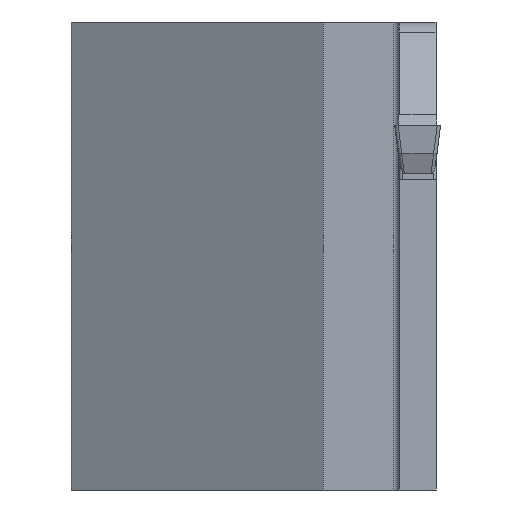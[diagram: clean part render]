
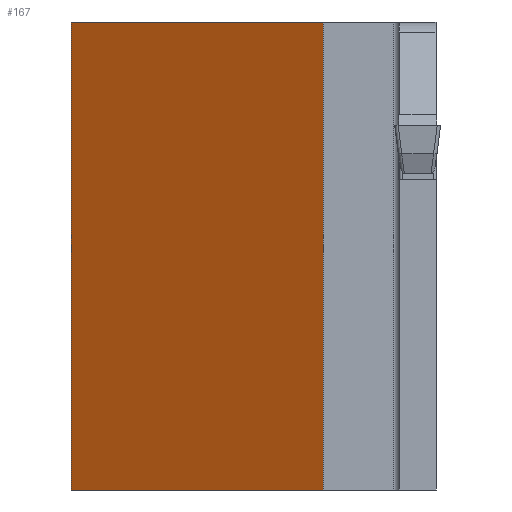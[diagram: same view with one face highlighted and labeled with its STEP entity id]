
A CAD part, left-side view. The second image highlights one B-rep face of the part: STEP entity #167.
In plain terms, the highlighted planar face has unit normal (-0.866, 0.5, 0).
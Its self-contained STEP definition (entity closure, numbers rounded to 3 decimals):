
#167=ADVANCED_FACE('',(#262),#210,.T.);
#210=PLANE('',#1172);
#262=FACE_OUTER_BOUND('',#317,.T.);
#317=EDGE_LOOP('',(#571,#572,#573,#574));
#571=ORIENTED_EDGE('',*,*,#834,.F.);
#572=ORIENTED_EDGE('',*,*,#857,.F.);
#573=ORIENTED_EDGE('',*,*,#860,.T.);
#574=ORIENTED_EDGE('',*,*,#861,.T.);
#708=VERTEX_POINT('',#1694);
#709=VERTEX_POINT('',#1696);
#729=VERTEX_POINT('',#1742);
#731=VERTEX_POINT('',#1749);
#834=EDGE_CURVE('',#708,#709,#951,.T.);
#857=EDGE_CURVE('',#729,#708,#971,.T.);
#860=EDGE_CURVE('',#729,#731,#973,.T.);
#861=EDGE_CURVE('',#731,#709,#974,.T.);
#951=LINE('',#1695,#1062);
#971=LINE('',#1743,#1082);
#973=LINE('',#1748,#1084);
#974=LINE('',#1750,#1085);
#1062=VECTOR('',#1377,1.);
#1082=VECTOR('',#1411,1.);
#1084=VECTOR('',#1417,1.);
#1085=VECTOR('',#1418,1.);
#1172=AXIS2_PLACEMENT_3D('',#1751,#1419,#1420);
#1377=DIRECTION('',(-0.5,-0.866,0.));
#1411=DIRECTION('',(0.,0.,1.));
#1417=DIRECTION('',(-0.5,-0.866,0.));
#1418=DIRECTION('',(0.,0.,1.));
#1419=DIRECTION('',(-0.866,0.5,0.));
#1420=DIRECTION('',(0.5,0.866,0.));
#1694=CARTESIAN_POINT('',(30.453,30.15,9.));
#1695=CARTESIAN_POINT('',(30.453,30.15,9.));
#1696=CARTESIAN_POINT('',(17.78,8.2,9.));
#1742=CARTESIAN_POINT('',(30.453,30.15,-31.75));
#1743=CARTESIAN_POINT('',(30.453,30.15,-31.75));
#1748=CARTESIAN_POINT('',(30.453,30.15,-31.75));
#1749=CARTESIAN_POINT('',(17.78,8.2,-31.75));
#1750=CARTESIAN_POINT('',(17.78,8.2,-31.75));
#1751=CARTESIAN_POINT('',(30.453,30.15,-31.75));
